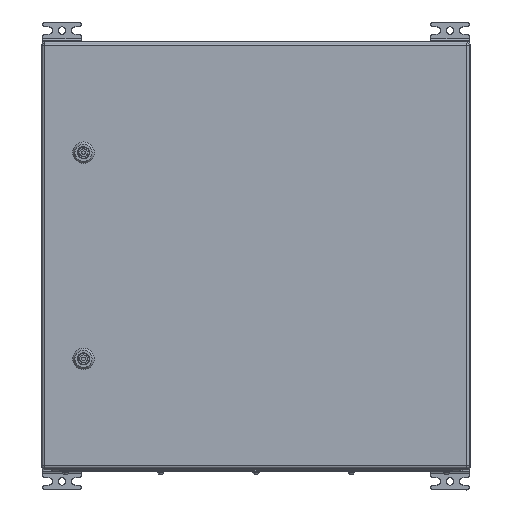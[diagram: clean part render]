
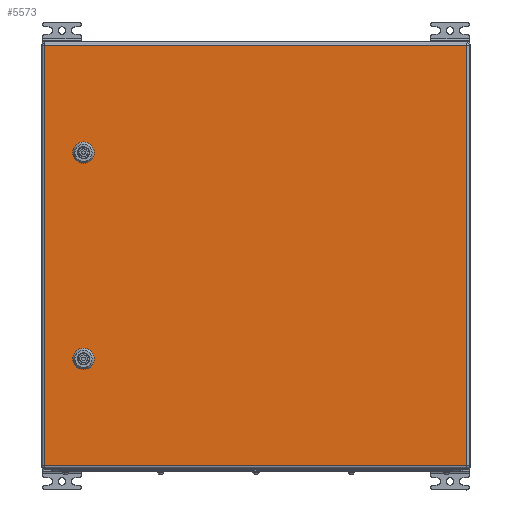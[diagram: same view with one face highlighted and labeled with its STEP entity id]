
A CAD part, top view. The second image highlights one B-rep face of the part: STEP entity #5573.
In plain terms, the highlighted planar face has unit normal (0, 0, 1).
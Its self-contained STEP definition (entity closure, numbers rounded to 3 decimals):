
#5573=ADVANCED_FACE('',(#13398,#13400,#13402),#13404,.T.);
#13398=FACE_BOUND('',#13399,.T.);
#13399=EDGE_LOOP('',(#35245,#35246,#35247,#35248));
#13400=FACE_BOUND('',#13401,.T.);
#13401=EDGE_LOOP('',(#35249,#35250,#35251,#35252,#35253,#35254,#35255,#35256));
#13402=FACE_BOUND('',#13403,.T.);
#13403=EDGE_LOOP('',(#35257,#35258,#35259,#35260,#35261,#35262,#35263,#35264));
#13404=PLANE('',#13405);
#13405=AXIS2_PLACEMENT_3D('',#13406,#13407,#13408);
#13406=CARTESIAN_POINT('',(0.,0.,1.5));
#13407=DIRECTION('',(0.,0.,1.));
#13408=DIRECTION('',(1.,0.,0.));
#35245=ORIENTED_EDGE('',*,*,#39159,.T.);
#35246=ORIENTED_EDGE('',*,*,#39160,.T.);
#35247=ORIENTED_EDGE('',*,*,#39092,.T.);
#35248=ORIENTED_EDGE('',*,*,#39161,.T.);
#35249=ORIENTED_EDGE('',*,*,#39162,.T.);
#35250=ORIENTED_EDGE('',*,*,#39163,.T.);
#35251=ORIENTED_EDGE('',*,*,#39164,.T.);
#35252=ORIENTED_EDGE('',*,*,#39165,.T.);
#35253=ORIENTED_EDGE('',*,*,#39166,.T.);
#35254=ORIENTED_EDGE('',*,*,#39167,.T.);
#35255=ORIENTED_EDGE('',*,*,#39168,.T.);
#35256=ORIENTED_EDGE('',*,*,#39169,.T.);
#35257=ORIENTED_EDGE('',*,*,#39170,.T.);
#35258=ORIENTED_EDGE('',*,*,#39171,.T.);
#35259=ORIENTED_EDGE('',*,*,#39172,.T.);
#35260=ORIENTED_EDGE('',*,*,#39173,.T.);
#35261=ORIENTED_EDGE('',*,*,#39174,.T.);
#35262=ORIENTED_EDGE('',*,*,#39175,.T.);
#35263=ORIENTED_EDGE('',*,*,#39176,.T.);
#35264=ORIENTED_EDGE('',*,*,#39177,.T.);
#39092=EDGE_CURVE('',#42353,#42351,#42354,.T.);
#39159=EDGE_CURVE('',#42470,#42471,#42472,.T.);
#39160=EDGE_CURVE('',#42471,#42353,#42473,.T.);
#39161=EDGE_CURVE('',#42351,#42470,#42474,.T.);
#39162=EDGE_CURVE('',#42475,#42476,#42477,.T.);
#39163=EDGE_CURVE('',#42476,#42478,#42479,.F.);
#39164=EDGE_CURVE('',#42478,#42480,#42481,.T.);
#39165=EDGE_CURVE('',#42480,#42482,#42483,.F.);
#39166=EDGE_CURVE('',#42482,#42484,#42485,.T.);
#39167=EDGE_CURVE('',#42484,#42486,#42487,.F.);
#39168=EDGE_CURVE('',#42486,#42488,#42489,.T.);
#39169=EDGE_CURVE('',#42488,#42475,#42490,.F.);
#39170=EDGE_CURVE('',#42491,#42492,#42493,.T.);
#39171=EDGE_CURVE('',#42492,#42494,#42495,.F.);
#39172=EDGE_CURVE('',#42494,#42496,#42497,.T.);
#39173=EDGE_CURVE('',#42496,#42498,#42499,.F.);
#39174=EDGE_CURVE('',#42498,#42500,#42501,.T.);
#39175=EDGE_CURVE('',#42500,#42502,#42503,.F.);
#39176=EDGE_CURVE('',#42502,#42504,#42505,.T.);
#39177=EDGE_CURVE('',#42504,#42491,#42506,.F.);
#42351=VERTEX_POINT('',#50737);
#42353=VERTEX_POINT('',#50742);
#42354=LINE('',#50743,#50744);
#42470=VERTEX_POINT('',#51016);
#42471=VERTEX_POINT('',#51017);
#42472=LINE('',#51018,#51019);
#42473=LINE('',#51021,#51022);
#42474=LINE('',#51024,#51025);
#42475=VERTEX_POINT('',#51027);
#42476=VERTEX_POINT('',#51028);
#42477=CIRCLE('',#51029,11.25);
#42478=VERTEX_POINT('',#51033);
#42479=LINE('',#51034,#51035);
#42480=VERTEX_POINT('',#51037);
#42481=CIRCLE('',#51038,11.25);
#42482=VERTEX_POINT('',#51042);
#42483=LINE('',#51043,#51044);
#42484=VERTEX_POINT('',#51046);
#42485=CIRCLE('',#51047,11.25);
#42486=VERTEX_POINT('',#51051);
#42487=LINE('',#51052,#51053);
#42488=VERTEX_POINT('',#51055);
#42489=CIRCLE('',#51056,11.25);
#42490=LINE('',#51060,#51061);
#42491=VERTEX_POINT('',#51063);
#42492=VERTEX_POINT('',#51064);
#42493=CIRCLE('',#51065,11.25);
#42494=VERTEX_POINT('',#51069);
#42495=LINE('',#51070,#51071);
#42496=VERTEX_POINT('',#51073);
#42497=CIRCLE('',#51074,11.25);
#42498=VERTEX_POINT('',#51078);
#42499=LINE('',#51079,#51080);
#42500=VERTEX_POINT('',#51082);
#42501=CIRCLE('',#51083,11.25);
#42502=VERTEX_POINT('',#51087);
#42503=LINE('',#51088,#51089);
#42504=VERTEX_POINT('',#51091);
#42505=CIRCLE('',#51092,11.25);
#42506=LINE('',#51096,#51097);
#50737=CARTESIAN_POINT('',(0.,0.,1.5));
#50742=CARTESIAN_POINT('',(0.,-592.,1.5));
#50743=CARTESIAN_POINT('',(0.,-592.,1.5));
#50744=VECTOR('',#50745,1.);
#50745=DIRECTION('',(0.,1.,0.));
#51016=CARTESIAN_POINT('',(-589.,0.,1.5));
#51017=CARTESIAN_POINT('',(-589.,-592.,1.5));
#51018=CARTESIAN_POINT('',(-589.,0.,1.5));
#51019=VECTOR('',#51020,1.);
#51020=DIRECTION('',(0.,-1.,0.));
#51021=CARTESIAN_POINT('',(-589.,-592.,1.5));
#51022=VECTOR('',#51023,1.);
#51023=DIRECTION('',(1.,0.,0.));
#51024=CARTESIAN_POINT('',(0.,0.,1.5));
#51025=VECTOR('',#51026,1.);
#51026=DIRECTION('',(-1.,0.,0.));
#51027=CARTESIAN_POINT('',(-449.1,-49.545,1.5));
#51028=CARTESIAN_POINT('',(-443.955,-44.4,1.5));
#51029=AXIS2_PLACEMENT_3D('',#51030,#51031,#51032);
#51030=CARTESIAN_POINT('',(-439.,-54.5,1.5));
#51031=DIRECTION('',(0.,0.,-1.));
#51032=DIRECTION('',(-0.898,0.44,0.));
#51033=CARTESIAN_POINT('',(-434.045,-44.4,1.5));
#51034=CARTESIAN_POINT('',(-434.045,-44.4,1.5));
#51035=VECTOR('',#51036,1.);
#51036=DIRECTION('',(-1.,0.,0.));
#51037=CARTESIAN_POINT('',(-428.9,-49.545,1.5));
#51038=AXIS2_PLACEMENT_3D('',#51039,#51040,#51041);
#51039=CARTESIAN_POINT('',(-439.,-54.5,1.5));
#51040=DIRECTION('',(0.,0.,-1.));
#51041=DIRECTION('',(0.44,0.898,0.));
#51042=CARTESIAN_POINT('',(-428.9,-59.455,1.5));
#51043=CARTESIAN_POINT('',(-428.9,-59.455,1.5));
#51044=VECTOR('',#51045,1.);
#51045=DIRECTION('',(0.,1.,0.));
#51046=CARTESIAN_POINT('',(-434.045,-64.6,1.5));
#51047=AXIS2_PLACEMENT_3D('',#51048,#51049,#51050);
#51048=CARTESIAN_POINT('',(-439.,-54.5,1.5));
#51049=DIRECTION('',(0.,0.,-1.));
#51050=DIRECTION('',(0.898,-0.44,0.));
#51051=CARTESIAN_POINT('',(-443.955,-64.6,1.5));
#51052=CARTESIAN_POINT('',(-443.955,-64.6,1.5));
#51053=VECTOR('',#51054,1.);
#51054=DIRECTION('',(1.,0.,0.));
#51055=CARTESIAN_POINT('',(-449.1,-59.455,1.5));
#51056=AXIS2_PLACEMENT_3D('',#51057,#51058,#51059);
#51057=CARTESIAN_POINT('',(-439.,-54.5,1.5));
#51058=DIRECTION('',(0.,0.,-1.));
#51059=DIRECTION('',(-0.44,-0.898,0.));
#51060=CARTESIAN_POINT('',(-449.1,-49.545,1.5));
#51061=VECTOR('',#51062,1.);
#51062=DIRECTION('',(0.,-1.,0.));
#51063=CARTESIAN_POINT('',(-160.1,-49.545,1.5));
#51064=CARTESIAN_POINT('',(-154.955,-44.4,1.5));
#51065=AXIS2_PLACEMENT_3D('',#51066,#51067,#51068);
#51066=CARTESIAN_POINT('',(-150.,-54.5,1.5));
#51067=DIRECTION('',(0.,0.,-1.));
#51068=DIRECTION('',(-0.898,0.44,0.));
#51069=CARTESIAN_POINT('',(-145.045,-44.4,1.5));
#51070=CARTESIAN_POINT('',(-145.045,-44.4,1.5));
#51071=VECTOR('',#51072,1.);
#51072=DIRECTION('',(-1.,0.,0.));
#51073=CARTESIAN_POINT('',(-139.9,-49.545,1.5));
#51074=AXIS2_PLACEMENT_3D('',#51075,#51076,#51077);
#51075=CARTESIAN_POINT('',(-150.,-54.5,1.5));
#51076=DIRECTION('',(0.,0.,-1.));
#51077=DIRECTION('',(0.44,0.898,0.));
#51078=CARTESIAN_POINT('',(-139.9,-59.455,1.5));
#51079=CARTESIAN_POINT('',(-139.9,-59.455,1.5));
#51080=VECTOR('',#51081,1.);
#51081=DIRECTION('',(0.,1.,0.));
#51082=CARTESIAN_POINT('',(-145.045,-64.6,1.5));
#51083=AXIS2_PLACEMENT_3D('',#51084,#51085,#51086);
#51084=CARTESIAN_POINT('',(-150.,-54.5,1.5));
#51085=DIRECTION('',(0.,0.,-1.));
#51086=DIRECTION('',(0.898,-0.44,0.));
#51087=CARTESIAN_POINT('',(-154.955,-64.6,1.5));
#51088=CARTESIAN_POINT('',(-154.955,-64.6,1.5));
#51089=VECTOR('',#51090,1.);
#51090=DIRECTION('',(1.,0.,0.));
#51091=CARTESIAN_POINT('',(-160.1,-59.455,1.5));
#51092=AXIS2_PLACEMENT_3D('',#51093,#51094,#51095);
#51093=CARTESIAN_POINT('',(-150.,-54.5,1.5));
#51094=DIRECTION('',(0.,0.,-1.));
#51095=DIRECTION('',(-0.44,-0.898,0.));
#51096=CARTESIAN_POINT('',(-160.1,-49.545,1.5));
#51097=VECTOR('',#51098,1.);
#51098=DIRECTION('',(0.,-1.,0.));
